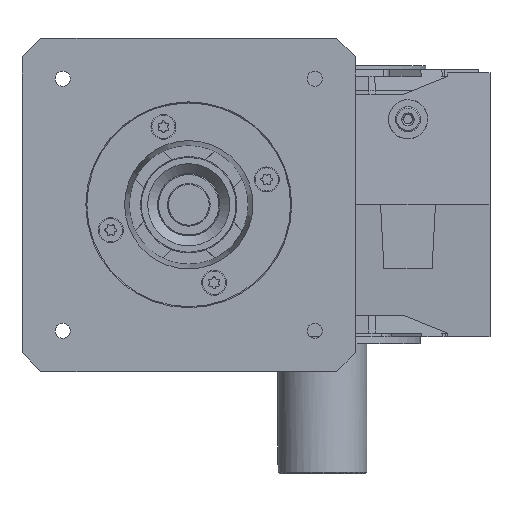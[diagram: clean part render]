
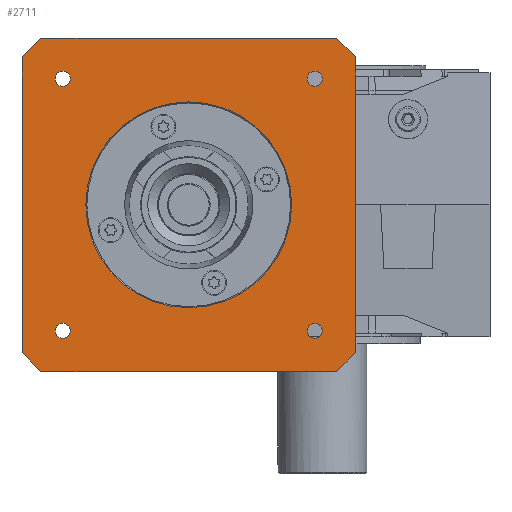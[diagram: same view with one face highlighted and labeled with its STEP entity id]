
A CAD part, left-side view. The second image highlights one B-rep face of the part: STEP entity #2711.
In plain terms, the highlighted planar face has unit normal (-1, 0, 0).
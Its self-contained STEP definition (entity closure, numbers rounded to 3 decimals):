
#2711 = ADVANCED_FACE( '', ( #5825, #5826, #5827, #5828, #5829, #5830 ), #5831, .T. );
#5825 = FACE_BOUND( '', #10409, .T. );
#5826 = FACE_BOUND( '', #10410, .T. );
#5827 = FACE_BOUND( '', #10411, .T. );
#5828 = FACE_BOUND( '', #10412, .T. );
#5829 = FACE_BOUND( '', #10413, .T. );
#5830 = FACE_OUTER_BOUND( '', #10414, .T. );
#5831 = PLANE( '', #10415 );
#10409 = EDGE_LOOP( '', ( #19928 ) );
#10410 = EDGE_LOOP( '', ( #19929 ) );
#10411 = EDGE_LOOP( '', ( #19930 ) );
#10412 = EDGE_LOOP( '', ( #19931 ) );
#10413 = EDGE_LOOP( '', ( #19932 ) );
#10414 = EDGE_LOOP( '', ( #19933, #19934, #19935, #19936, #19937, #19938, #19939, #19940 ) );
#10415 = AXIS2_PLACEMENT_3D( '', #19941, #19942, #19943 );
#19928 = ORIENTED_EDGE( '', *, *, #25936, .T. );
#19929 = ORIENTED_EDGE( '', *, *, #25944, .T. );
#19930 = ORIENTED_EDGE( '', *, *, #25945, .T. );
#19931 = ORIENTED_EDGE( '', *, *, #25946, .T. );
#19932 = ORIENTED_EDGE( '', *, *, #25947, .T. );
#19933 = ORIENTED_EDGE( '', *, *, #25912, .T. );
#19934 = ORIENTED_EDGE( '', *, *, #25941, .T. );
#19935 = ORIENTED_EDGE( '', *, *, #25948, .T. );
#19936 = ORIENTED_EDGE( '', *, *, #25949, .T. );
#19937 = ORIENTED_EDGE( '', *, *, #25950, .T. );
#19938 = ORIENTED_EDGE( '', *, *, #25951, .T. );
#19939 = ORIENTED_EDGE( '', *, *, #25952, .T. );
#19940 = ORIENTED_EDGE( '', *, *, #25953, .T. );
#19941 = CARTESIAN_POINT( '', ( -231., 167.5, -92.5 ) );
#19942 = DIRECTION( '', ( -1., 0., 0. ) );
#19943 = DIRECTION( '', ( 0., 0., 1. ) );
#25912 = EDGE_CURVE( '', #31061, #31059, #31062, .F. );
#25936 = EDGE_CURVE( '', #31106, #31106, #31107, .F. );
#25941 = EDGE_CURVE( '', #31059, #31114, #31116, .F. );
#25944 = EDGE_CURVE( '', #31120, #31120, #31121, .T. );
#25945 = EDGE_CURVE( '', #31122, #31122, #31123, .T. );
#25946 = EDGE_CURVE( '', #31124, #31124, #31125, .T. );
#25947 = EDGE_CURVE( '', #31126, #31126, #31127, .T. );
#25948 = EDGE_CURVE( '', #31114, #31128, #31129, .F. );
#25949 = EDGE_CURVE( '', #31128, #31130, #31131, .F. );
#25950 = EDGE_CURVE( '', #31130, #31132, #31133, .F. );
#25951 = EDGE_CURVE( '', #31132, #31134, #31135, .F. );
#25952 = EDGE_CURVE( '', #31134, #31136, #31137, .F. );
#25953 = EDGE_CURVE( '', #31136, #31061, #31138, .F. );
#31059 = VERTEX_POINT( '', #40883 );
#31061 = VERTEX_POINT( '', #40886 );
#31062 = LINE( '', #40887, #40888 );
#31106 = VERTEX_POINT( '', #40948 );
#31107 = CIRCLE( '', #40949, 57.727 );
#31114 = VERTEX_POINT( '', #40956 );
#31116 = LINE( '', #40959, #40960 );
#31120 = VERTEX_POINT( '', #40966 );
#31121 = CIRCLE( '', #40967, 4.25 );
#31122 = VERTEX_POINT( '', #40968 );
#31123 = CIRCLE( '', #40969, 4.25 );
#31124 = VERTEX_POINT( '', #40970 );
#31125 = CIRCLE( '', #40971, 4.25 );
#31126 = VERTEX_POINT( '', #40972 );
#31127 = CIRCLE( '', #40973, 4.25 );
#31128 = VERTEX_POINT( '', #40974 );
#31129 = LINE( '', #40975, #40976 );
#31130 = VERTEX_POINT( '', #40977 );
#31131 = LINE( '', #40978, #40979 );
#31132 = VERTEX_POINT( '', #40980 );
#31133 = LINE( '', #40981, #40982 );
#31134 = VERTEX_POINT( '', #40983 );
#31135 = LINE( '', #40984, #40985 );
#31136 = VERTEX_POINT( '', #40986 );
#31137 = LINE( '', #40987, #40988 );
#31138 = LINE( '', #40989, #40990 );
#40883 = CARTESIAN_POINT( '', ( -231., 168.548, -82.934 ) );
#40886 = CARTESIAN_POINT( '', ( -231., 168.548, 82.934 ) );
#40887 = CARTESIAN_POINT( '', ( -231., 168.548, -92.5 ) );
#40888 = VECTOR( '', #48057, 1000. );
#40948 = CARTESIAN_POINT( '', ( -231., 75., 57.727 ) );
#40949 = AXIS2_PLACEMENT_3D( '', #48095, #48096, #48097 );
#40956 = CARTESIAN_POINT( '', ( -231., 157.934, -93.548 ) );
#40959 = CARTESIAN_POINT( '', ( -231., 163.241, -88.241 ) );
#40960 = VECTOR( '', #48108, 1000. );
#40966 = CARTESIAN_POINT( '', ( -231., 145.711, 74.961 ) );
#40967 = AXIS2_PLACEMENT_3D( '', #48111, #48112, #48113 );
#40968 = CARTESIAN_POINT( '', ( -231., 0.039, 70.711 ) );
#40969 = AXIS2_PLACEMENT_3D( '', #48114, #48115, #48116 );
#40970 = CARTESIAN_POINT( '', ( -231., 4.289, -74.961 ) );
#40971 = AXIS2_PLACEMENT_3D( '', #48117, #48118, #48119 );
#40972 = CARTESIAN_POINT( '', ( -231., 149.961, -70.711 ) );
#40973 = AXIS2_PLACEMENT_3D( '', #48120, #48121, #48122 );
#40974 = CARTESIAN_POINT( '', ( -231., -7.934, -93.548 ) );
#40975 = CARTESIAN_POINT( '', ( -231., 167.5, -93.548 ) );
#40976 = VECTOR( '', #48123, 1000. );
#40977 = CARTESIAN_POINT( '', ( -231., -18.548, -82.934 ) );
#40978 = CARTESIAN_POINT( '', ( -231., 79.259, -180.741 ) );
#40979 = VECTOR( '', #48124, 1000. );
#40980 = CARTESIAN_POINT( '', ( -231., -18.548, 82.934 ) );
#40981 = CARTESIAN_POINT( '', ( -231., -18.548, -92.5 ) );
#40982 = VECTOR( '', #48125, 1000. );
#40983 = CARTESIAN_POINT( '', ( -231., -7.934, 93.548 ) );
#40984 = CARTESIAN_POINT( '', ( -231., -13.241, 88.241 ) );
#40985 = VECTOR( '', #48126, 1000. );
#40986 = CARTESIAN_POINT( '', ( -231., 157.934, 93.548 ) );
#40987 = CARTESIAN_POINT( '', ( -231., 167.5, 93.548 ) );
#40988 = VECTOR( '', #48127, 1000. );
#40989 = CARTESIAN_POINT( '', ( -231., 255.741, -4.259 ) );
#40990 = VECTOR( '', #48128, 1000. );
#48057 = DIRECTION( '', ( 0., 0., 1. ) );
#48095 = CARTESIAN_POINT( '', ( -231., 75., 0. ) );
#48096 = DIRECTION( '', ( -1., 0., 0. ) );
#48097 = DIRECTION( '', ( 0., 0., 1. ) );
#48108 = DIRECTION( '', ( 0., 0.707, 0.707 ) );
#48111 = CARTESIAN_POINT( '', ( -231., 145.711, 70.711 ) );
#48112 = DIRECTION( '', ( 1., 0., 0. ) );
#48113 = DIRECTION( '', ( 0., 0., 1. ) );
#48114 = CARTESIAN_POINT( '', ( -231., 4.289, 70.711 ) );
#48115 = DIRECTION( '', ( 1., 0., 0. ) );
#48116 = DIRECTION( '', ( 0., -1., 0. ) );
#48117 = CARTESIAN_POINT( '', ( -231., 4.289, -70.711 ) );
#48118 = DIRECTION( '', ( 1., 0., 0. ) );
#48119 = DIRECTION( '', ( 0., 0., -1. ) );
#48120 = CARTESIAN_POINT( '', ( -231., 145.711, -70.711 ) );
#48121 = DIRECTION( '', ( 1., 0., 0. ) );
#48122 = DIRECTION( '', ( 0., 1., 0. ) );
#48123 = DIRECTION( '', ( 0., 1., 0. ) );
#48124 = DIRECTION( '', ( 0., 0.707, -0.707 ) );
#48125 = DIRECTION( '', ( 0., 0., -1. ) );
#48126 = DIRECTION( '', ( 0., -0.707, -0.707 ) );
#48127 = DIRECTION( '', ( 0., -1., 0. ) );
#48128 = DIRECTION( '', ( 0., -0.707, 0.707 ) );
